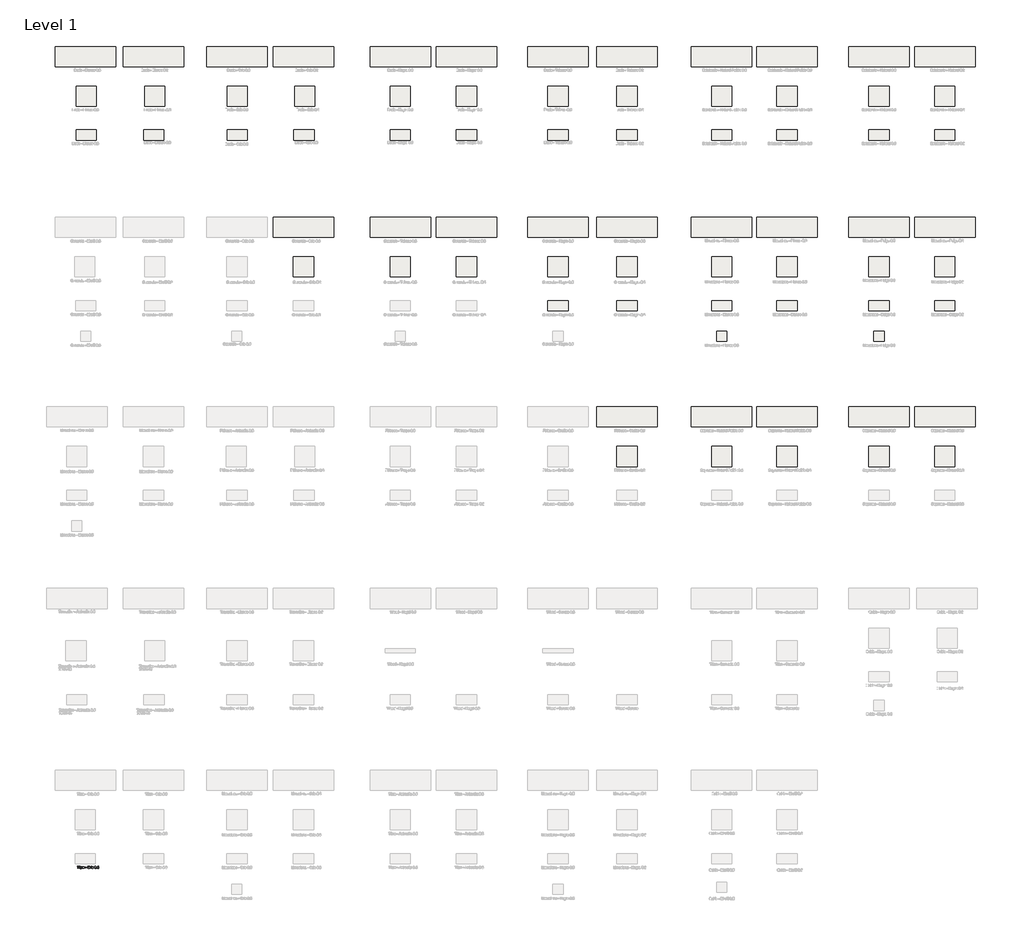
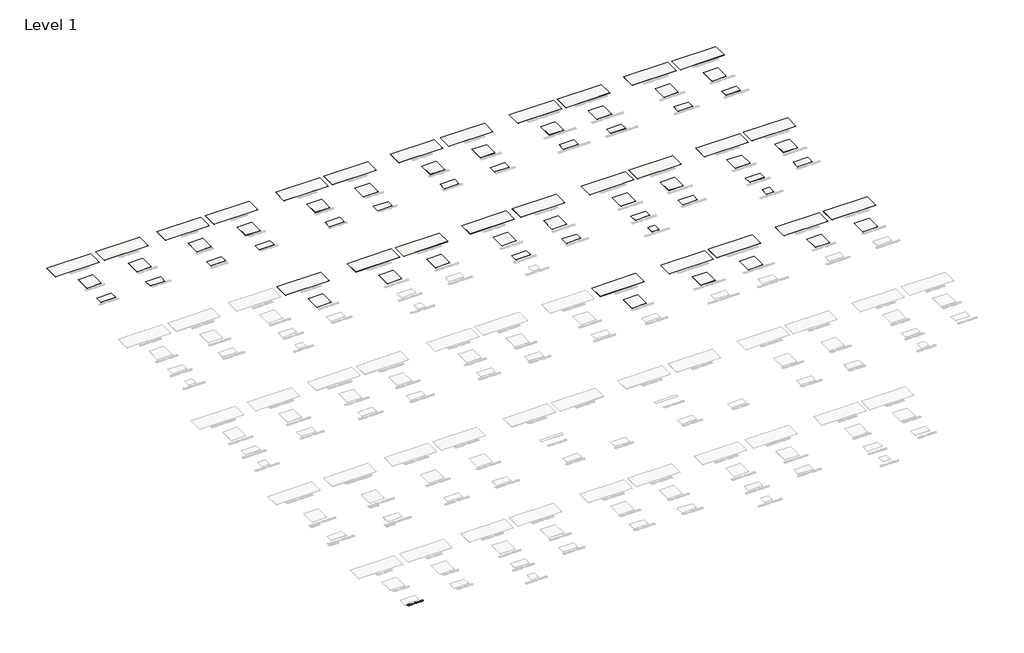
# One storey, part 2 of 80: 72 slabs, 1 proxy.
"""IFC4 building model written with IfcOpenShell, lengths in millimetres."""

from ifc_helpers import new_model, si_unit, frame, origin, origin_with_axes, place, context, project, spatial, polyline, outline, extrude, element, save

model = new_model("IFC4")

# Units and contexts
model_context = context("Model", 3, world=origin())
ifc_project = project(units=[si_unit("LENGTHUNIT", "METRE", prefix="MILLI")], contexts=[model_context])

# Site, building, storey
site = spatial("IfcSite", under=ifc_project)
building = spatial("IfcBuilding", under=site)
storey = spatial("IfcBuildingStorey", under=building, Name="Level 1", Elevation=0.0)

# Proxy
placement = place(None, origin())
element("IfcBuildingElementProxy", 1, Name="24\" Arial", ObjectType="24\" Arial", at=placement, inside=storey, context=model_context, shape_type="SweptSolid", body=[
    extrude(outline(polyline([(-26390.153031, -20307.8922787), (-26390.153031, -20204.5076633), (-26428.9222617, -20204.5076633), (-26428.9222617, -20189.7384325), (-26336.6145694, -20189.7384325), (-26336.6145694, -20204.5076633), (-26375.3838002, -20204.5076633), (-26375.3838002, -20307.8922787), (-26390.153031, -20307.8922787)])), origin_with_axes(), (0.0, 0.0, 1.0), 2.0),
    extrude(outline(polyline([(-26321.8453387, -20307.8922787), (-26321.8453387, -20221.1230479), (-26307.0761079, -20221.1230479), (-26307.0761079, -20307.8922787), (-26321.8453387, -20307.8922787)])), origin_with_axes(), (0.0, 0.0, 1.0), 2.0),
    extrude(outline(polyline([(-26321.8453387, -20204.5076633), (-26321.8453387, -20189.7384325), (-26307.0761079, -20189.7384325), (-26307.0761079, -20204.5076633), (-26321.8453387, -20204.5076633)])), origin_with_axes(), (0.0, 0.0, 1.0), 2.0),
    extrude(outline(polyline([(-26253.5376464, -20295.574971), (-26251.6914925, -20308.324971), (-26262.7395694, -20309.7384325), (-26275.1145694, -20307.2865094), (-26281.2876464, -20300.8538171), (-26283.0761079, -20284.0942017), (-26283.0761079, -20235.8922787), (-26294.153031, -20235.8922787), (-26294.153031, -20221.1230479), (-26283.0761079, -20221.1230479), (-26283.0761079, -20200.0365094), (-26268.3068771, -20191.3538171), (-26268.3068771, -20221.1230479), (-26253.5376464, -20221.1230479), (-26253.5376464, -20235.8922787), (-26268.3068771, -20235.8922787), (-26268.3068771, -20283.6615094), (-26267.528031, -20291.276894), (-26265.0039925, -20293.9740094), (-26259.9703387, -20294.9692017), (-26253.5376464, -20295.574971)])), origin_with_axes(), (0.0, 0.0, 1.0), 2.0),
    extrude(outline(polyline([(-26183.3838002, -20296.8153556), (-26197.7059156, -20306.824971), (-26213.528031, -20309.7384325), (-26225.8705791, -20307.9860287), (-26234.9751464, -20302.7288171), (-26240.5893291, -20294.745644), (-26242.4607233, -20284.8153556), (-26239.6338002, -20273.1326633), (-26232.2059156, -20264.651894), (-26221.8645694, -20259.8057402), (-26209.0857233, -20257.5845863), (-26183.4703387, -20252.5076633), (-26183.3838002, -20249.2192017), (-26187.4511079, -20238.3153556), (-26203.778031, -20234.0461248), (-26218.7203387, -20236.887471), (-26225.8453387, -20246.9692017), (-26240.6145694, -20245.1230479), (-26234.2251464, -20230.699971), (-26221.3597617, -20222.2480479), (-26201.8741848, -20219.276894), (-26183.9751464, -20221.901894), (-26173.8645694, -20228.4932402), (-26169.3357233, -20238.5172787), (-26168.6145694, -20251.4403556), (-26168.6145694, -20269.8153556), (-26167.8645694, -20295.4740094), (-26164.9222617, -20307.8922787), (-26179.6914925, -20307.8922787), (-26183.3838002, -20296.8153556)]), holes=[polyline([(-26183.3838002, -20267.276894), (-26207.2107233, -20271.8057402), (-26219.9174541, -20274.199971), (-26225.6722617, -20278.0942017), (-26227.6914925, -20283.776894), (-26223.2924541, -20291.7672787), (-26210.3838002, -20294.9692017), (-26195.4414925, -20291.4355479), (-26185.8068771, -20282.8826633), (-26183.4703387, -20271.4595863), (-26183.3838002, -20267.276894)])]), origin_with_axes(), (0.0, 0.0, 1.0), 2.0),
    extrude(outline(polyline([(-26148.3068771, -20307.8922787), (-26148.3068771, -20221.1230479), (-26133.5376464, -20221.1230479), (-26133.5376464, -20233.2384325), (-26122.2443771, -20222.7672787), (-26106.8261079, -20219.276894), (-26092.8789925, -20222.089394), (-26083.3597617, -20229.4740094), (-26078.9318771, -20240.3345863), (-26078.153031, -20254.6134325), (-26078.153031, -20307.8922787), (-26092.9222617, -20307.8922787), (-26092.9222617, -20256.6038171), (-26094.6241848, -20243.5365094), (-26100.6386079, -20236.6278556), (-26110.778031, -20234.0461248), (-26126.8020694, -20239.8442017), (-26131.8537521, -20248.245644), (-26133.5376464, -20261.8538171), (-26133.5376464, -20307.8922787), (-26148.3068771, -20307.8922787)])), origin_with_axes(), (0.0, 0.0, 1.0), 2.0),
    extrude(outline(polyline([(-26019.0761079, -20272.8153556), (-26019.0761079, -20258.0461248), (-25972.9222617, -20258.0461248), (-25972.9222617, -20272.8153556), (-26019.0761079, -20272.8153556)])), origin_with_axes(), (0.0, 0.0, 1.0), 2.0),
    extrude(outline(polyline([(-25852.9222617, -20261.7384325), (-25852.9222617, -20246.9692017), (-25804.9222617, -20246.9692017), (-25804.9222617, -20291.1326633), (-25828.6193771, -20305.0653556), (-25853.6722617, -20309.7384325), (-25870.2407714, -20307.8814613), (-25885.215531, -20302.3105479), (-25897.6554348, -20293.2204037), (-25906.6193771, -20280.8057402), (-25912.0388483, -20265.9139133), (-25913.8453387, -20249.3922787), (-25912.0460598, -20232.7516537), (-25906.6482233, -20217.2720863), (-25897.8753867, -20204.2877113), (-25885.9511079, -20195.1326633), (-25871.4270694, -20189.7023748), (-25854.8549541, -20187.8922787), (-25831.7491848, -20192.089394), (-25815.5520694, -20203.7720863), (-25806.6241848, -20223.3153556), (-25820.2395694, -20227.151894), (-25826.9751464, -20213.4932402), (-25838.4847617, -20205.6182402), (-25855.0857233, -20202.6615094), (-25873.9943771, -20205.8490094), (-25886.8597617, -20214.214394), (-25894.4607233, -20225.5942017), (-25899.0761079, -20248.7865094), (-25897.6878867, -20262.9103075), (-25893.5232233, -20274.5317017), (-25886.7083194, -20283.5677594), (-25877.3693771, -20289.9355479), (-25854.8549541, -20294.9692017), (-25834.6482233, -20291.1759325), (-25819.6914925, -20283.0845863), (-25819.6914925, -20261.7384325), (-25852.9222617, -20261.7384325)])), origin_with_axes(), (0.0, 0.0, 1.0), 2.0),
    extrude(outline(polyline([(-25782.7684156, -20307.8922787), (-25782.7684156, -20221.1230479), (-25769.8453387, -20221.1230479), (-25769.8453387, -20233.9595863), (-25760.6722617, -20222.1326633), (-25751.4414925, -20219.276894), (-25736.6145694, -20223.8345863), (-25741.5472617, -20237.074971), (-25751.9318771, -20234.0461248), (-25760.2828387, -20236.9595863), (-25765.6049541, -20245.0365094), (-25767.9991848, -20262.2865094), (-25767.9991848, -20307.8922787), (-25782.7684156, -20307.8922787)])), origin_with_axes(), (0.0, 0.0, 1.0), 2.0),
    extrude(outline(polyline([(-25727.3838002, -20307.8922787), (-25727.3838002, -20221.1230479), (-25712.6145694, -20221.1230479), (-25712.6145694, -20307.8922787), (-25727.3838002, -20307.8922787)])), origin_with_axes(), (0.0, 0.0, 1.0), 2.0),
    extrude(outline(polyline([(-25727.3838002, -20204.5076633), (-25727.3838002, -20189.7384325), (-25712.6145694, -20189.7384325), (-25712.6145694, -20204.5076633), (-25727.3838002, -20204.5076633)])), origin_with_axes(), (0.0, 0.0, 1.0), 2.0),
    extrude(outline(polyline([(-25695.9991848, -20282.0461248), (-25681.2299541, -20280.199971), (-25674.3934156, -20291.1615094), (-25658.7299541, -20294.9692017), (-25643.6722617, -20291.4788171), (-25638.7684156, -20283.2865094), (-25643.7011079, -20276.651894), (-25658.903031, -20272.4403556), (-25681.1434156, -20265.214394), (-25690.8501464, -20256.776894), (-25694.153031, -20244.8634325), (-25691.4991848, -20233.8586248), (-25684.2588002, -20225.449971), (-25674.8693771, -20221.0797787), (-25662.1626464, -20219.276894), (-25644.1914925, -20222.1759325), (-25632.7684156, -20230.0220863), (-25627.6914925, -20243.276894), (-25642.4607233, -20245.1230479), (-25648.0136079, -20236.9740094), (-25661.0088002, -20234.0461248), (-25675.1434156, -20236.8442017), (-25679.3838002, -20243.3634325), (-25677.6241848, -20247.6615094), (-25672.1145694, -20250.9211248), (-25659.3934156, -20254.0653556), (-25637.715531, -20261.0172787), (-25627.6482233, -20268.8922787), (-25623.9991848, -20281.7288171), (-25628.2828387, -20295.8634325), (-25640.6434156, -20306.1182402), (-25658.9318771, -20309.7384325), (-25673.8237041, -20307.9932402), (-25684.6914925, -20302.7576633), (-25691.9463002, -20294.089394), (-25695.9991848, -20282.0461248)])), origin_with_axes(), (0.0, 0.0, 1.0), 2.0),
    extrude(outline(polyline([(-25564.9222617, -20276.5076633), (-25550.153031, -20274.6615094), (-25542.0039925, -20290.2095863), (-25526.7588002, -20294.9692017), (-25516.6338002, -20293.3321825), (-25508.8164925, -20288.4211248), (-25503.8188964, -20281.0942017), (-25502.153031, -20272.2095863), (-25503.8044733, -20263.7756921), (-25508.7588002, -20256.9355479), (-25516.2588002, -20252.403096), (-25525.5472617, -20250.8922787), (-25535.903031, -20252.5076633), (-25534.2588002, -20237.7384325), (-25531.8934156, -20237.9115094), (-25515.1338002, -20233.6711248), (-25509.5520694, -20228.2913171), (-25507.6914925, -20220.6326633), (-25513.0857233, -20209.0797787), (-25526.9895694, -20204.5076633), (-25541.0664925, -20209.1230479), (-25548.3068771, -20222.9692017), (-25563.0761079, -20221.1230479), (-25558.7275502, -20207.8610287), (-25550.9895694, -20197.9595863), (-25540.403031, -20191.793721), (-25527.5088002, -20189.7384325), (-25509.6963002, -20193.7913171), (-25497.2347617, -20204.8682402), (-25492.9222617, -20219.7672787), (-25497.0184156, -20233.3826633), (-25509.1338002, -20243.1615094), (-25499.8886079, -20246.8970863), (-25493.0376464, -20253.2576633), (-25488.7972617, -20261.8970863), (-25487.3838002, -20272.4692017), (-25490.2107233, -20286.8634325), (-25498.6914925, -20298.8922787), (-25511.4919733, -20307.026894), (-25527.278031, -20309.7384325), (-25541.5568771, -20307.4235287), (-25553.1818771, -20300.4788171), (-25561.2660117, -20289.856221), (-25564.9222617, -20276.5076633)])), origin_with_axes(), (0.0, 0.0, 1.0), 2.0),
    extrude(outline(polyline([(-25467.0761079, -20307.8922787), (-25467.0761079, -20293.1230479), (-25452.3068771, -20293.1230479), (-25452.3068771, -20307.8922787), (-25467.0761079, -20307.8922787)])), origin_with_axes(), (0.0, 0.0, 1.0), 2.0),
    extrude(outline(polyline([(-25428.3068771, -20276.5076633), (-25413.5376464, -20274.6615094), (-25406.0953387, -20289.8778556), (-25390.6626464, -20294.9692017), (-25380.0761079, -20293.198769), (-25372.1434156, -20287.887471), (-25367.1890887, -20279.6482883), (-25365.5376464, -20269.0942017), (-25367.0845214, -20259.1567017), (-25371.7251464, -20251.5557402), (-25379.4955791, -20246.731221), (-25390.4318771, -20245.1230479), (-25403.3982233, -20247.6903556), (-25411.6914925, -20254.3538171), (-25426.4607233, -20252.5076633), (-25413.5376464, -20191.5845863), (-25356.3068771, -20191.5845863), (-25356.3068771, -20206.3538171), (-25401.5953387, -20206.3538171), (-25407.9126464, -20238.8922787), (-25397.3621656, -20232.4884325), (-25386.3068771, -20230.3538171), (-25372.5075983, -20233.0004517), (-25361.0520694, -20240.9403556), (-25353.3393291, -20253.0413171), (-25350.7684156, -20268.1711248), (-25353.0833194, -20282.9403556), (-25360.028031, -20295.574971), (-25373.3261079, -20306.1975671), (-25390.7203387, -20309.7384325), (-25405.2263483, -20307.4631921), (-25416.7828387, -20300.637471), (-25424.7047137, -20290.0545383), (-25428.3068771, -20276.5076633)])), origin_with_axes(), (0.0, 0.0, 1.0), 2.0),
])

# Slabs
element("IfcSlab", 2, ObjectType="100x300 Coverlam_Basic Blanco 5.6", at=placement, inside=storey, context=model_context, shape_type="SweptSolid", body=[
    extrude(outline(polyline([(-24145.5376464, 20449.2793249), (-21145.5376464, 20449.2793249), (-21145.5376464, 19449.2793249), (-24145.5376464, 19449.2793249), (-24145.5376464, 20449.2793249)])), frame((0.0, 0.0, -5.6), z_axis=(0.0, 0.0, 1.0), x_axis=(1.0, 0.0, 0.0)), (0.0, 0.0, 1.0), 5.6),
])
element("IfcSlab", 3, ObjectType="100x100 Coverlam_Basic Blanco 5.6", at=placement, inside=storey, context=model_context, shape_type="SweptSolid", body=[
    extrude(outline(polyline([(-23083.4563631, 18483.9522821), (-22083.4563631, 18483.9522821), (-22083.4563631, 17483.9522821), (-23083.4563631, 17483.9522821), (-23083.4563631, 18483.9522821)])), frame((0.0, 0.0, -5.6), z_axis=(0.0, 0.0, 1.0), x_axis=(1.0, 0.0, 0.0)), (0.0, 0.0, 1.0), 5.6),
])
element("IfcSlab", 4, ObjectType="50x100 Coverlam_Basic Blanco 5.6", at=placement, inside=storey, context=model_context, shape_type="SweptSolid", body=[
    extrude(outline(polyline([(-23123.4563631, 16313.9377666), (-22123.4563631, 16313.9377666), (-22123.4563631, 15813.9377666), (-23123.4563631, 15813.9377666), (-23123.4563631, 16313.9377666)])), frame((0.0, 0.0, -5.6), z_axis=(0.0, 0.0, 1.0), x_axis=(1.0, 0.0, 0.0)), (0.0, 0.0, 1.0), 5.6),
])
element("IfcSlab", 5, ObjectType="100x300 Coverlam_Basic Blanco", at=placement, inside=storey, context=model_context, shape_type="SweptSolid", body=[
    extrude(outline(polyline([(-27505.5376464, 20449.2793249), (-24505.5376464, 20449.2793249), (-24505.5376464, 19449.2793249), (-27505.5376464, 19449.2793249), (-27505.5376464, 20449.2793249)])), frame((0.0, 0.0, -3.5), z_axis=(0.0, 0.0, 1.0), x_axis=(1.0, 0.0, 0.0)), (0.0, 0.0, 1.0), 3.5),
])
element("IfcSlab", 6, ObjectType="100x100 Coverlam_Basic Blanco", at=placement, inside=storey, context=model_context, shape_type="SweptSolid", body=[
    extrude(outline(polyline([(-26483.4563631, 18483.9522821), (-25483.4563631, 18483.9522821), (-25483.4563631, 17483.9522821), (-26483.4563631, 17483.9522821), (-26483.4563631, 18483.9522821)])), frame((0.0, 0.0, -3.5), z_axis=(0.0, 0.0, 1.0), x_axis=(1.0, 0.0, 0.0)), (0.0, 0.0, 1.0), 3.5),
])
element("IfcSlab", 7, ObjectType="50x100 Coverlam_Basic Blanco 3.5", at=placement, inside=storey, context=model_context, shape_type="SweptSolid", body=[
    extrude(outline(polyline([(-26483.4563631, 16313.9377666), (-25483.4563631, 16313.9377666), (-25483.4563631, 15813.9377666), (-26483.4563631, 15813.9377666), (-26483.4563631, 16313.9377666)])), frame((0.0, 0.0, -3.5), z_axis=(0.0, 0.0, 1.0), x_axis=(1.0, 0.0, 0.0)), (0.0, 0.0, 1.0), 3.5),
])
element("IfcSlab", 8, ObjectType="100x300 Coverlam_Basic Gris 5.6", at=placement, inside=storey, context=model_context, shape_type="SweptSolid", body=[
    extrude(outline(polyline([(-16705.5376464, 20449.2793249), (-13705.5376464, 20449.2793249), (-13705.5376464, 19449.2793249), (-16705.5376464, 19449.2793249), (-16705.5376464, 20449.2793249)])), frame((0.0, 0.0, -5.6), z_axis=(0.0, 0.0, 1.0), x_axis=(1.0, 0.0, 0.0)), (0.0, 0.0, 1.0), 5.6),
])
element("IfcSlab", 9, ObjectType="100x300 Coverlam_Basic Gris 3.5", at=placement, inside=storey, context=model_context, shape_type="SweptSolid", body=[
    extrude(outline(polyline([(-20005.5376464, 20449.2793249), (-17005.5376464, 20449.2793249), (-17005.5376464, 19449.2793249), (-20005.5376464, 19449.2793249), (-20005.5376464, 20449.2793249)])), frame((0.0, 0.0, -3.5), z_axis=(0.0, 0.0, 1.0), x_axis=(1.0, 0.0, 0.0)), (0.0, 0.0, 1.0), 3.5),
])
element("IfcSlab", 10, ObjectType="100x100 Coverlam_Basic Gris 5.6", at=placement, inside=storey, context=model_context, shape_type="SweptSolid", body=[
    extrude(outline(polyline([(-15643.4563631, 18483.9522821), (-14643.4563631, 18483.9522821), (-14643.4563631, 17483.9522821), (-15643.4563631, 17483.9522821), (-15643.4563631, 18483.9522821)])), frame((0.0, 0.0, -5.6), z_axis=(0.0, 0.0, 1.0), x_axis=(1.0, 0.0, 0.0)), (0.0, 0.0, 1.0), 5.6),
])
element("IfcSlab", 11, ObjectType="100x100 Coverlam_Basic Gris 3.5", at=placement, inside=storey, context=model_context, shape_type="SweptSolid", body=[
    extrude(outline(polyline([(-18983.4563631, 18483.9522821), (-17983.4563631, 18483.9522821), (-17983.4563631, 17483.9522821), (-18983.4563631, 17483.9522821), (-18983.4563631, 18483.9522821)])), frame((0.0, 0.0, -3.5), z_axis=(0.0, 0.0, 1.0), x_axis=(1.0, 0.0, 0.0)), (0.0, 0.0, 1.0), 3.5),
])
element("IfcSlab", 12, ObjectType="50x100 Coverlam_Basic Gris 5.6", at=placement, inside=storey, context=model_context, shape_type="SweptSolid", body=[
    extrude(outline(polyline([(-15683.4563631, 16313.9377666), (-14683.4563631, 16313.9377666), (-14683.4563631, 15813.9377666), (-15683.4563631, 15813.9377666), (-15683.4563631, 16313.9377666)])), frame((0.0, 0.0, -5.6), z_axis=(0.0, 0.0, 1.0), x_axis=(1.0, 0.0, 0.0)), (0.0, 0.0, 1.0), 5.6),
])
element("IfcSlab", 13, ObjectType="50x100 Coverlam_Basic Gris 3.5", at=placement, inside=storey, context=model_context, shape_type="SweptSolid", body=[
    extrude(outline(polyline([(-18983.4563631, 16313.9377666), (-17983.4563631, 16313.9377666), (-17983.4563631, 15813.9377666), (-18983.4563631, 15813.9377666), (-18983.4563631, 16313.9377666)])), frame((0.0, 0.0, -3.5), z_axis=(0.0, 0.0, 1.0), x_axis=(1.0, 0.0, 0.0)), (0.0, 0.0, 1.0), 3.5),
])
element("IfcSlab", 14, ObjectType="100x300 Coverlam_Concrete Gris 5.6", at=placement, inside=storey, context=model_context, shape_type="SweptSolid", body=[
    extrude(outline(polyline([(-16705.5376464, 11990.4715713), (-13705.5376464, 11990.4715713), (-13705.5376464, 10990.4715713), (-16705.5376464, 10990.4715713), (-16705.5376464, 11990.4715713)])), frame((0.0, 0.0, -5.6), z_axis=(0.0, 0.0, 1.0), x_axis=(1.0, 0.0, 0.0)), (0.0, 0.0, 1.0), 5.6),
])
element("IfcSlab", 15, ObjectType="100x100 Coverlam_Concrete Gris 5.6", at=placement, inside=storey, context=model_context, shape_type="SweptSolid", body=[
    extrude(outline(polyline([(-15705.5376464, 10025.1445285), (-14705.5376464, 10025.1445285), (-14705.5376464, 9025.1445285), (-15705.5376464, 9025.1445285), (-15705.5376464, 10025.1445285)])), frame((0.0, 0.0, -5.6), z_axis=(0.0, 0.0, 1.0), x_axis=(1.0, 0.0, 0.0)), (0.0, 0.0, 1.0), 5.6),
])
element("IfcSlab", 16, ObjectType="100x300 Coverlam_Basic Negro 5.6", at=placement, inside=storey, context=model_context, shape_type="SweptSolid", body=[
    extrude(outline(polyline([(-8625.5376464, 20449.2793249), (-5625.5376464, 20449.2793249), (-5625.5376464, 19449.2793249), (-8625.5376464, 19449.2793249), (-8625.5376464, 20449.2793249)])), frame((0.0, 0.0, -5.6), z_axis=(0.0, 0.0, 1.0), x_axis=(1.0, 0.0, 0.0)), (0.0, 0.0, 1.0), 5.6),
])
element("IfcSlab", 17, ObjectType="100x300 Coverlam_Basic Negro 3.5", at=placement, inside=storey, context=model_context, shape_type="SweptSolid", body=[
    extrude(outline(polyline([(-11905.5376464, 20449.2793249), (-8905.5376464, 20449.2793249), (-8905.5376464, 19449.2793249), (-11905.5376464, 19449.2793249), (-11905.5376464, 20449.2793249)])), frame((0.0, 0.0, -3.5), z_axis=(0.0, 0.0, 1.0), x_axis=(1.0, 0.0, 0.0)), (0.0, 0.0, 1.0), 3.5),
])
element("IfcSlab", 18, ObjectType="100x100 Coverlam_Basic Negro 5.6", at=placement, inside=storey, context=model_context, shape_type="SweptSolid", body=[
    extrude(outline(polyline([(-7625.5376464, 18483.9522821), (-6625.5376464, 18483.9522821), (-6625.5376464, 17483.9522821), (-7625.5376464, 17483.9522821), (-7625.5376464, 18483.9522821)])), frame((0.0, 0.0, -5.6), z_axis=(0.0, 0.0, 1.0), x_axis=(1.0, 0.0, 0.0)), (0.0, 0.0, 1.0), 5.6),
])
element("IfcSlab", 19, ObjectType="100x100 Coverlam_Basic Negro 3.5", at=placement, inside=storey, context=model_context, shape_type="SweptSolid", body=[
    extrude(outline(polyline([(-10905.5376464, 18483.9522821), (-9905.5376464, 18483.9522821), (-9905.5376464, 17483.9522821), (-10905.5376464, 17483.9522821), (-10905.5376464, 18483.9522821)])), frame((0.0, 0.0, -3.5), z_axis=(0.0, 0.0, 1.0), x_axis=(1.0, 0.0, 0.0)), (0.0, 0.0, 1.0), 3.5),
])
element("IfcSlab", 20, ObjectType="50x100 Coverlam_Basic Negro 5.6", at=placement, inside=storey, context=model_context, shape_type="SweptSolid", body=[
    extrude(outline(polyline([(-7625.5376464, 16313.9377666), (-6625.5376464, 16313.9377666), (-6625.5376464, 15813.9377666), (-7625.5376464, 15813.9377666), (-7625.5376464, 16313.9377666)])), frame((0.0, 0.0, -5.6), z_axis=(0.0, 0.0, 1.0), x_axis=(1.0, 0.0, 0.0)), (0.0, 0.0, 1.0), 5.6),
])
element("IfcSlab", 21, ObjectType="50x100 Coverlam_Basic Negro 3.5", at=placement, inside=storey, context=model_context, shape_type="SweptSolid", body=[
    extrude(outline(polyline([(-10905.5376464, 16313.9377666), (-9905.5376464, 16313.9377666), (-9905.5376464, 15813.9377666), (-10905.5376464, 15813.9377666), (-10905.5376464, 16313.9377666)])), frame((0.0, 0.0, -3.5), z_axis=(0.0, 0.0, 1.0), x_axis=(1.0, 0.0, 0.0)), (0.0, 0.0, 1.0), 3.5),
])
element("IfcSlab", 22, ObjectType="100x300 Coverlam_Concrete Tabaco 5.6", at=placement, inside=storey, context=model_context, shape_type="SweptSolid", body=[
    extrude(outline(polyline([(-8625.5376464, 11990.4715713), (-5625.5376464, 11990.4715713), (-5625.5376464, 10990.4715713), (-8625.5376464, 10990.4715713), (-8625.5376464, 11990.4715713)])), frame((0.0, 0.0, -5.6), z_axis=(0.0, 0.0, 1.0), x_axis=(1.0, 0.0, 0.0)), (0.0, 0.0, 1.0), 5.6),
])
element("IfcSlab", 23, ObjectType="100x300 Coverlam_Concrete Tabaco 3.5", at=placement, inside=storey, context=model_context, shape_type="SweptSolid", body=[
    extrude(outline(polyline([(-11905.5376464, 11990.4715713), (-8905.5376464, 11990.4715713), (-8905.5376464, 10990.4715713), (-11905.5376464, 10990.4715713), (-11905.5376464, 11990.4715713)])), frame((0.0, 0.0, -3.5), z_axis=(0.0, 0.0, 1.0), x_axis=(1.0, 0.0, 0.0)), (0.0, 0.0, 1.0), 3.5),
])
element("IfcSlab", 24, ObjectType="100x100 Coverlam_Concrete Tabaco 5.6", at=placement, inside=storey, context=model_context, shape_type="SweptSolid", body=[
    extrude(outline(polyline([(-7625.5376464, 10025.1445285), (-6625.5376464, 10025.1445285), (-6625.5376464, 9025.1445285), (-7625.5376464, 9025.1445285), (-7625.5376464, 10025.1445285)])), frame((0.0, 0.0, -5.6), z_axis=(0.0, 0.0, 1.0), x_axis=(1.0, 0.0, 0.0)), (0.0, 0.0, 1.0), 5.6),
])
element("IfcSlab", 25, ObjectType="100x100 Coverlam_Concrete Tabaco 3.5", at=placement, inside=storey, context=model_context, shape_type="SweptSolid", body=[
    extrude(outline(polyline([(-10905.5376464, 10025.1445285), (-9905.5376464, 10025.1445285), (-9905.5376464, 9025.1445285), (-10905.5376464, 9025.1445285), (-10905.5376464, 10025.1445285)])), frame((0.0, 0.0, -3.5), z_axis=(0.0, 0.0, 1.0), x_axis=(1.0, 0.0, 0.0)), (0.0, 0.0, 1.0), 3.5),
])
element("IfcSlab", 26, ObjectType="100x300 Coverlam_Basic Tabaco 5.6", at=placement, inside=storey, context=model_context, shape_type="SweptSolid", body=[
    extrude(outline(polyline([(-665.5376464, 20449.2793249), (2334.4623536, 20449.2793249), (2334.4623536, 19449.2793249), (-665.5376464, 19449.2793249), (-665.5376464, 20449.2793249)])), frame((0.0, 0.0, -5.6), z_axis=(0.0, 0.0, 1.0), x_axis=(1.0, 0.0, 0.0)), (0.0, 0.0, 1.0), 5.6),
])
element("IfcSlab", 27, ObjectType="100x300 Coverlam_Basic Tabaco 3.5", at=placement, inside=storey, context=model_context, shape_type="SweptSolid", body=[
    extrude(outline(polyline([(-4085.5376464, 20449.2793249), (-1085.5376464, 20449.2793249), (-1085.5376464, 19449.2793249), (-4085.5376464, 19449.2793249), (-4085.5376464, 20449.2793249)])), frame((0.0, 0.0, -3.5), z_axis=(0.0, 0.0, 1.0), x_axis=(1.0, 0.0, 0.0)), (0.0, 0.0, 1.0), 3.5),
])
element("IfcSlab", 28, ObjectType="100x100 Coverlam_Basic Tabaco 5.6", at=placement, inside=storey, context=model_context, shape_type="SweptSolid", body=[
    extrude(outline(polyline([(334.4623536, 18483.9522821), (1334.4623536, 18483.9522821), (1334.4623536, 17483.9522821), (334.4623536, 17483.9522821), (334.4623536, 18483.9522821)])), frame((0.0, 0.0, -5.6), z_axis=(0.0, 0.0, 1.0), x_axis=(1.0, 0.0, 0.0)), (0.0, 0.0, 1.0), 5.6),
])
element("IfcSlab", 29, ObjectType="100x100 Coverlam_Basic Tabaco 3.5", at=placement, inside=storey, context=model_context, shape_type="SweptSolid", body=[
    extrude(outline(polyline([(-3085.5376464, 18483.9522821), (-2085.5376464, 18483.9522821), (-2085.5376464, 17483.9522821), (-3085.5376464, 17483.9522821), (-3085.5376464, 18483.9522821)])), frame((0.0, 0.0, -3.5), z_axis=(0.0, 0.0, 1.0), x_axis=(1.0, 0.0, 0.0)), (0.0, 0.0, 1.0), 3.5),
])
element("IfcSlab", 30, ObjectType="50x100 Coverlam_Basic Tabaco 5.6", at=placement, inside=storey, context=model_context, shape_type="SweptSolid", body=[
    extrude(outline(polyline([(334.4623536, 16313.9377666), (1334.4623536, 16313.9377666), (1334.4623536, 15813.9377666), (334.4623536, 15813.9377666), (334.4623536, 16313.9377666)])), frame((0.0, 0.0, -5.6), z_axis=(0.0, 0.0, 1.0), x_axis=(1.0, 0.0, 0.0)), (0.0, 0.0, 1.0), 5.6),
])
element("IfcSlab", 31, ObjectType="50x100 Coverlam_Basic Tabaco 3.5", at=placement, inside=storey, context=model_context, shape_type="SweptSolid", body=[
    extrude(outline(polyline([(-3085.5376464, 16313.9377666), (-2085.5376464, 16313.9377666), (-2085.5376464, 15813.9377666), (-3085.5376464, 15813.9377666), (-3085.5376464, 16313.9377666)])), frame((0.0, 0.0, -3.5), z_axis=(0.0, 0.0, 1.0), x_axis=(1.0, 0.0, 0.0)), (0.0, 0.0, 1.0), 3.5),
])
element("IfcSlab", 32, ObjectType="100x300 Coverlam__Concrete Negro 5.6", at=placement, inside=storey, context=model_context, shape_type="SweptSolid", body=[
    extrude(outline(polyline([(-665.5376464, 11990.4715713), (2334.4623536, 11990.4715713), (2334.4623536, 10990.4715713), (-665.5376464, 10990.4715713), (-665.5376464, 11990.4715713)])), frame((0.0, 0.0, -5.6), z_axis=(0.0, 0.0, 1.0), x_axis=(1.0, 0.0, 0.0)), (0.0, 0.0, 1.0), 5.6),
])
element("IfcSlab", 33, ObjectType="100x300 Coverlam__Concrete Negro 3.5", at=placement, inside=storey, context=model_context, shape_type="SweptSolid", body=[
    extrude(outline(polyline([(-4085.5376464, 11990.4715713), (-1085.5376464, 11990.4715713), (-1085.5376464, 10990.4715713), (-4085.5376464, 10990.4715713), (-4085.5376464, 11990.4715713)])), frame((0.0, 0.0, -3.5), z_axis=(0.0, 0.0, 1.0), x_axis=(1.0, 0.0, 0.0)), (0.0, 0.0, 1.0), 3.5),
])
element("IfcSlab", 34, ObjectType="100x100 Coverlam_Concrete Negro 5.6", at=placement, inside=storey, context=model_context, shape_type="SweptSolid", body=[
    extrude(outline(polyline([(334.4623536, 10025.1445285), (1334.4623536, 10025.1445285), (1334.4623536, 9025.1445285), (334.4623536, 9025.1445285), (334.4623536, 10025.1445285)])), frame((0.0, 0.0, -5.6), z_axis=(0.0, 0.0, 1.0), x_axis=(1.0, 0.0, 0.0)), (0.0, 0.0, 1.0), 5.6),
])
element("IfcSlab", 35, ObjectType="100x100 Coverlam_Concrete Negro 3.5", at=placement, inside=storey, context=model_context, shape_type="SweptSolid", body=[
    extrude(outline(polyline([(-3085.5376464, 10025.1445285), (-2085.5376464, 10025.1445285), (-2085.5376464, 9025.1445285), (-3085.5376464, 9025.1445285), (-3085.5376464, 10025.1445285)])), frame((0.0, 0.0, -3.5), z_axis=(0.0, 0.0, 1.0), x_axis=(1.0, 0.0, 0.0)), (0.0, 0.0, 1.0), 3.5),
])
element("IfcSlab", 36, ObjectType="50x100 Coverlam_Concrete Negro 5.6", at=placement, inside=storey, context=model_context, shape_type="SweptSolid", body=[
    extrude(outline(polyline([(334.4623536, 7853.9377666), (1334.4623536, 7853.9377666), (1334.4623536, 7353.9377666), (334.4623536, 7353.9377666), (334.4623536, 7853.9377666)])), frame((0.0, 0.0, -5.6), z_axis=(0.0, 0.0, 1.0), x_axis=(1.0, 0.0, 0.0)), (0.0, 0.0, 1.0), 5.6),
])
element("IfcSlab", 37, ObjectType="50x100 Coverlam_Concrete Negro 3.5", at=placement, inside=storey, context=model_context, shape_type="SweptSolid", body=[
    extrude(outline(polyline([(-3085.5376464, 7853.9377666), (-2085.5376464, 7853.9377666), (-2085.5376464, 7353.9377666), (-3085.5376464, 7353.9377666), (-3085.5376464, 7853.9377666)])), frame((0.0, 0.0, -3.5), z_axis=(0.0, 0.0, 1.0), x_axis=(1.0, 0.0, 0.0)), (0.0, 0.0, 1.0), 3.5),
])
element("IfcSlab", 38, ObjectType="100x300 Coverlam_Estatuario Pulido 5.6", at=placement, inside=storey, context=model_context, shape_type="SweptSolid", body=[
    extrude(outline(polyline([(7274.4623536, 20449.2793249), (10274.4623536, 20449.2793249), (10274.4623536, 19449.2793249), (7274.4623536, 19449.2793249), (7274.4623536, 20449.2793249)])), frame((0.0, 0.0, -5.6), z_axis=(0.0, 0.0, 1.0), x_axis=(1.0, 0.0, 0.0)), (0.0, 0.0, 1.0), 5.6),
])
element("IfcSlab", 39, ObjectType="100x300 Coverlam_Estatuario Pulido 3.5", at=placement, inside=storey, context=model_context, shape_type="SweptSolid", body=[
    extrude(outline(polyline([(4034.4623536, 20449.2793249), (7034.4623536, 20449.2793249), (7034.4623536, 19449.2793249), (4034.4623536, 19449.2793249), (4034.4623536, 20449.2793249)])), frame((0.0, 0.0, -3.5), z_axis=(0.0, 0.0, 1.0), x_axis=(1.0, 0.0, 0.0)), (0.0, 0.0, 1.0), 3.5),
])
element("IfcSlab", 40, ObjectType="100x100 Coverlam_Estatuario Pulido 5.6", at=placement, inside=storey, context=model_context, shape_type="SweptSolid", body=[
    extrude(outline(polyline([(8274.4623536, 18483.9522821), (9274.4623536, 18483.9522821), (9274.4623536, 17483.9522821), (8274.4623536, 17483.9522821), (8274.4623536, 18483.9522821)])), frame((0.0, 0.0, -5.6), z_axis=(0.0, 0.0, 1.0), x_axis=(1.0, 0.0, 0.0)), (0.0, 0.0, 1.0), 5.6),
])
element("IfcSlab", 41, ObjectType="100x100 Coverlam_Estatuario Pulido 3.5", at=placement, inside=storey, context=model_context, shape_type="SweptSolid", body=[
    extrude(outline(polyline([(5034.4623536, 18483.9522821), (6034.4623536, 18483.9522821), (6034.4623536, 17483.9522821), (5034.4623536, 17483.9522821), (5034.4623536, 18483.9522821)])), frame((0.0, 0.0, -3.5), z_axis=(0.0, 0.0, 1.0), x_axis=(1.0, 0.0, 0.0)), (0.0, 0.0, 1.0), 3.5),
])
element("IfcSlab", 42, ObjectType="50x100 Coverlam_Estatuario Pulido 5.6", at=placement, inside=storey, context=model_context, shape_type="SweptSolid", body=[
    extrude(outline(polyline([(8274.4623536, 16313.9377666), (9274.4623536, 16313.9377666), (9274.4623536, 15813.9377666), (8274.4623536, 15813.9377666), (8274.4623536, 16313.9377666)])), frame((0.0, 0.0, -5.6), z_axis=(0.0, 0.0, 1.0), x_axis=(1.0, 0.0, 0.0)), (0.0, 0.0, 1.0), 5.6),
])
element("IfcSlab", 43, ObjectType="50x100 Coverlam_Estatuario Pulido 3.5", at=placement, inside=storey, context=model_context, shape_type="SweptSolid", body=[
    extrude(outline(polyline([(5034.4623536, 16313.9377666), (6034.4623536, 16313.9377666), (6034.4623536, 15813.9377666), (5034.4623536, 15813.9377666), (5034.4623536, 16313.9377666)])), frame((0.0, 0.0, -3.5), z_axis=(0.0, 0.0, 1.0), x_axis=(1.0, 0.0, 0.0)), (0.0, 0.0, 1.0), 3.5),
])
element("IfcSlab", 44, ObjectType="100x300 Coverlam_Limestone Blanco 5.6", at=placement, inside=storey, context=model_context, shape_type="SweptSolid", body=[
    extrude(outline(polyline([(7274.4623536, 11990.4715713), (10274.4623536, 11990.4715713), (10274.4623536, 10990.4715713), (7274.4623536, 10990.4715713), (7274.4623536, 11990.4715713)])), frame((0.0, 0.0, -5.6), z_axis=(0.0, 0.0, 1.0), x_axis=(1.0, 0.0, 0.0)), (0.0, 0.0, 1.0), 5.6),
])
element("IfcSlab", 45, ObjectType="100x300 Coverlam_Limestone Blanco 3.5", at=placement, inside=storey, context=model_context, shape_type="SweptSolid", body=[
    extrude(outline(polyline([(4034.4623536, 11990.4715713), (7034.4623536, 11990.4715713), (7034.4623536, 10990.4715713), (4034.4623536, 10990.4715713), (4034.4623536, 11990.4715713)])), frame((0.0, 0.0, -3.5), z_axis=(0.0, 0.0, 1.0), x_axis=(1.0, 0.0, 0.0)), (0.0, 0.0, 1.0), 3.5),
])
element("IfcSlab", 46, ObjectType="100x100 Coverlam_Limestone Blanco 5.6", at=placement, inside=storey, context=model_context, shape_type="SweptSolid", body=[
    extrude(outline(polyline([(8274.4623536, 10025.1445285), (9274.4623536, 10025.1445285), (9274.4623536, 9025.1445285), (8274.4623536, 9025.1445285), (8274.4623536, 10025.1445285)])), frame((0.0, 0.0, -5.6), z_axis=(0.0, 0.0, 1.0), x_axis=(1.0, 0.0, 0.0)), (0.0, 0.0, 1.0), 5.6),
])
element("IfcSlab", 47, ObjectType="100x100 Coverlam_Limestone Blanco 3.5", at=placement, inside=storey, context=model_context, shape_type="SweptSolid", body=[
    extrude(outline(polyline([(5034.4623536, 10025.1445285), (6034.4623536, 10025.1445285), (6034.4623536, 9025.1445285), (5034.4623536, 9025.1445285), (5034.4623536, 10025.1445285)])), frame((0.0, 0.0, -3.5), z_axis=(0.0, 0.0, 1.0), x_axis=(1.0, 0.0, 0.0)), (0.0, 0.0, 1.0), 3.5),
])
element("IfcSlab", 48, ObjectType="100x50 Coverlam_Limestone Blanco 5.6", at=placement, inside=storey, context=model_context, shape_type="SweptSolid", body=[
    extrude(outline(polyline([(8274.4623536, 7853.9377666), (9274.4623536, 7853.9377666), (9274.4623536, 7353.9377666), (8274.4623536, 7353.9377666), (8274.4623536, 7853.9377666)])), frame((0.0, 0.0, -5.6), z_axis=(0.0, 0.0, 1.0), x_axis=(1.0, 0.0, 0.0)), (0.0, 0.0, 1.0), 5.6),
])
element("IfcSlab", 49, ObjectType="100x50 Coverlam_Limestone Blanco 3.5", at=placement, inside=storey, context=model_context, shape_type="SweptSolid", body=[
    extrude(outline(polyline([(5034.4623536, 7853.9377666), (6034.4623536, 7853.9377666), (6034.4623536, 7353.9377666), (5034.4623536, 7353.9377666), (5034.4623536, 7853.9377666)])), frame((0.0, 0.0, -3.5), z_axis=(0.0, 0.0, 1.0), x_axis=(1.0, 0.0, 0.0)), (0.0, 0.0, 1.0), 3.5),
])
element("IfcSlab", 50, ObjectType="50x50 Coverlam_Limestone Blanco 3.5", at=placement, inside=storey, context=model_context, shape_type="SweptSolid", body=[
    extrude(outline(polyline([(5284.4623536, 6323.9377666), (5784.4623536, 6323.9377666), (5784.4623536, 5823.9377666), (5284.4623536, 5823.9377666), (5284.4623536, 6323.9377666)])), frame((0.0, 0.0, -3.5), z_axis=(0.0, 0.0, 1.0), x_axis=(1.0, 0.0, 0.0)), (0.0, 0.0, 1.0), 3.5),
])
element("IfcSlab", 51, ObjectType="100x300 Coverlam_Estatuario Natural 5.6", at=placement, inside=storey, context=model_context, shape_type="SweptSolid", body=[
    extrude(outline(polyline([(15094.4623536, 20449.2793249), (18094.4623536, 20449.2793249), (18094.4623536, 19449.2793249), (15094.4623536, 19449.2793249), (15094.4623536, 20449.2793249)])), frame((0.0, 0.0, -5.6), z_axis=(0.0, 0.0, 1.0), x_axis=(1.0, 0.0, 0.0)), (0.0, 0.0, 1.0), 5.6),
])
element("IfcSlab", 52, ObjectType="100x100 Coverlam_Estatuario Natural 5.6", at=placement, inside=storey, context=model_context, shape_type="SweptSolid", body=[
    extrude(outline(polyline([(16094.4623536, 18483.9522821), (17094.4623536, 18483.9522821), (17094.4623536, 17483.9522821), (16094.4623536, 17483.9522821), (16094.4623536, 18483.9522821)])), frame((0.0, 0.0, -5.6), z_axis=(0.0, 0.0, 1.0), x_axis=(1.0, 0.0, 0.0)), (0.0, 0.0, 1.0), 5.6),
])
element("IfcSlab", 53, ObjectType="100x50 Coverlam_Estatuario Natural 5.6", at=placement, inside=storey, context=model_context, shape_type="SweptSolid", body=[
    extrude(outline(polyline([(16094.4623536, 16313.9377666), (17094.4623536, 16313.9377666), (17094.4623536, 15813.9377666), (16094.4623536, 15813.9377666), (16094.4623536, 16313.9377666)])), frame((0.0, 0.0, -5.6), z_axis=(0.0, 0.0, 1.0), x_axis=(1.0, 0.0, 0.0)), (0.0, 0.0, 1.0), 5.6),
])
element("IfcSlab", 54, ObjectType="100x300 Coverlam_Limestone Beige 5.6", at=placement, inside=storey, context=model_context, shape_type="SweptSolid", body=[
    extrude(outline(polyline([(15094.4623536, 11990.4715713), (18094.4623536, 11990.4715713), (18094.4623536, 10990.4715713), (15094.4623536, 10990.4715713), (15094.4623536, 11990.4715713)])), frame((0.0, 0.0, -5.6), z_axis=(0.0, 0.0, 1.0), x_axis=(1.0, 0.0, 0.0)), (0.0, 0.0, 1.0), 5.6),
])
element("IfcSlab", 55, ObjectType="100x100 Coverlam_Limestone Beige 5.6", at=placement, inside=storey, context=model_context, shape_type="SweptSolid", body=[
    extrude(outline(polyline([(16094.4623536, 10025.1445285), (17094.4623536, 10025.1445285), (17094.4623536, 9025.1445285), (16094.4623536, 9025.1445285), (16094.4623536, 10025.1445285)])), frame((0.0, 0.0, -5.6), z_axis=(0.0, 0.0, 1.0), x_axis=(1.0, 0.0, 0.0)), (0.0, 0.0, 1.0), 5.6),
])
element("IfcSlab", 56, ObjectType="100x50 Coverlam_Limestone Beige5.6", at=placement, inside=storey, context=model_context, shape_type="SweptSolid", body=[
    extrude(outline(polyline([(16094.4623536, 7853.9377666), (17094.4623536, 7853.9377666), (17094.4623536, 7353.9377666), (16094.4623536, 7353.9377666), (16094.4623536, 7853.9377666)])), frame((0.0, 0.0, -5.6), z_axis=(0.0, 0.0, 1.0), x_axis=(1.0, 0.0, 0.0)), (0.0, 0.0, 1.0), 5.6),
])
element("IfcSlab", 57, ObjectType="100x300 Coverlam_Estatuario Natural 3.5", at=placement, inside=storey, context=model_context, shape_type="SweptSolid", body=[
    extrude(outline(polyline([(11834.4623536, 20449.2793249), (14834.4623536, 20449.2793249), (14834.4623536, 19449.2793249), (11834.4623536, 19449.2793249), (11834.4623536, 20449.2793249)])), frame((0.0, 0.0, -3.5), z_axis=(0.0, 0.0, 1.0), x_axis=(1.0, 0.0, 0.0)), (0.0, 0.0, 1.0), 3.5),
])
element("IfcSlab", 58, ObjectType="100x100 Coverlam_Estatuario Natural 3.5", at=placement, inside=storey, context=model_context, shape_type="SweptSolid", body=[
    extrude(outline(polyline([(12834.4623536, 18483.9522821), (13834.4623536, 18483.9522821), (13834.4623536, 17483.9522821), (12834.4623536, 17483.9522821), (12834.4623536, 18483.9522821)])), frame((0.0, 0.0, -3.5), z_axis=(0.0, 0.0, 1.0), x_axis=(1.0, 0.0, 0.0)), (0.0, 0.0, 1.0), 3.5),
])
element("IfcSlab", 59, ObjectType="100x50 Coverlam_Estatuario Natural 3.5", at=placement, inside=storey, context=model_context, shape_type="SweptSolid", body=[
    extrude(outline(polyline([(12834.4623536, 16313.9377666), (13834.4623536, 16313.9377666), (13834.4623536, 15813.9377666), (12834.4623536, 15813.9377666), (12834.4623536, 16313.9377666)])), frame((0.0, 0.0, -3.5), z_axis=(0.0, 0.0, 1.0), x_axis=(1.0, 0.0, 0.0)), (0.0, 0.0, 1.0), 3.5),
])
element("IfcSlab", 60, ObjectType="100x300 Coverlam_Limestone Beige 3.5", at=placement, inside=storey, context=model_context, shape_type="SweptSolid", body=[
    extrude(outline(polyline([(11834.4623536, 11990.4715713), (14834.4623536, 11990.4715713), (14834.4623536, 10990.4715713), (11834.4623536, 10990.4715713), (11834.4623536, 11990.4715713)])), frame((0.0, 0.0, -3.5), z_axis=(0.0, 0.0, 1.0), x_axis=(1.0, 0.0, 0.0)), (0.0, 0.0, 1.0), 3.5),
])
element("IfcSlab", 61, ObjectType="100x100 Coverlam_Limestone Beige 3.5", at=placement, inside=storey, context=model_context, shape_type="SweptSolid", body=[
    extrude(outline(polyline([(12834.4623536, 10025.1445285), (13834.4623536, 10025.1445285), (13834.4623536, 9025.1445285), (12834.4623536, 9025.1445285), (12834.4623536, 10025.1445285)])), frame((0.0, 0.0, -3.5), z_axis=(0.0, 0.0, 1.0), x_axis=(1.0, 0.0, 0.0)), (0.0, 0.0, 1.0), 3.5),
])
element("IfcSlab", 62, ObjectType="100x50 Coverlam_Limestone Beige 3.5", at=placement, inside=storey, context=model_context, shape_type="SweptSolid", body=[
    extrude(outline(polyline([(12834.4623536, 7853.9377666), (13834.4623536, 7853.9377666), (13834.4623536, 7353.9377666), (12834.4623536, 7353.9377666), (12834.4623536, 7853.9377666)])), frame((0.0, 0.0, -3.5), z_axis=(0.0, 0.0, 1.0), x_axis=(1.0, 0.0, 0.0)), (0.0, 0.0, 1.0), 3.5),
])
element("IfcSlab", 63, ObjectType="50x50 Coverlam_Limestone Beige 3.5", at=placement, inside=storey, context=model_context, shape_type="SweptSolid", body=[
    extrude(outline(polyline([(13084.4623536, 6323.9377666), (13584.4623536, 6323.9377666), (13584.4623536, 5823.9377666), (13084.4623536, 5823.9377666), (13084.4623536, 6323.9377666)])), frame((0.0, 0.0, -3.5), z_axis=(0.0, 0.0, 1.0), x_axis=(1.0, 0.0, 0.0)), (0.0, 0.0, 1.0), 3.5),
])
element("IfcSlab", 64, ObjectType="100x300 Coverlam_Pirineos Grafito 5.6", at=placement, inside=storey, context=model_context, shape_type="SweptSolid", body=[
    extrude(outline(polyline([(-665.5376464, 2590.4715713), (2334.4623536, 2590.4715713), (2334.4623536, 1590.4715713), (-665.5376464, 1590.4715713), (-665.5376464, 2590.4715713)])), frame((0.0, 0.0, -5.6), z_axis=(0.0, 0.0, 1.0), x_axis=(1.0, 0.0, 0.0)), (0.0, 0.0, 1.0), 5.6),
])
element("IfcSlab", 65, ObjectType="100x100 Coverlam_Pirineos Grafito 5.6", at=placement, inside=storey, context=model_context, shape_type="SweptSolid", body=[
    extrude(outline(polyline([(334.4623536, 625.1445285), (1334.4623536, 625.1445285), (1334.4623536, -374.8554715), (334.4623536, -374.8554715), (334.4623536, 625.1445285)])), frame((0.0, 0.0, -5.6), z_axis=(0.0, 0.0, 1.0), x_axis=(1.0, 0.0, 0.0)), (0.0, 0.0, 1.0), 5.6),
])
element("IfcSlab", 66, ObjectType="100x300 Coverlam_Supreme Pulido 5.6", at=placement, inside=storey, context=model_context, shape_type="SweptSolid", body=[
    extrude(outline(polyline([(7274.4623536, 2590.4715713), (10274.4623536, 2590.4715713), (10274.4623536, 1590.4715713), (7274.4623536, 1590.4715713), (7274.4623536, 2590.4715713)])), frame((0.0, 0.0, -5.6), z_axis=(0.0, 0.0, 1.0), x_axis=(1.0, 0.0, 0.0)), (0.0, 0.0, 1.0), 5.6),
])
element("IfcSlab", 67, ObjectType="100x100 Coverlam_Supreme Pulido 5.6", at=placement, inside=storey, context=model_context, shape_type="SweptSolid", body=[
    extrude(outline(polyline([(8274.4623536, 625.1445285), (9274.4623536, 625.1445285), (9274.4623536, -374.8554715), (8274.4623536, -374.8554715), (8274.4623536, 625.1445285)])), frame((0.0, 0.0, -5.6), z_axis=(0.0, 0.0, 1.0), x_axis=(1.0, 0.0, 0.0)), (0.0, 0.0, 1.0), 5.6),
])
element("IfcSlab", 68, ObjectType="100x300 Coverlam_Supreme Pulido 3.5", at=placement, inside=storey, context=model_context, shape_type="SweptSolid", body=[
    extrude(outline(polyline([(4034.4623536, 2590.4715713), (7034.4623536, 2590.4715713), (7034.4623536, 1590.4715713), (4034.4623536, 1590.4715713), (4034.4623536, 2590.4715713)])), frame((0.0, 0.0, -3.5), z_axis=(0.0, 0.0, 1.0), x_axis=(1.0, 0.0, 0.0)), (0.0, 0.0, 1.0), 3.5),
])
element("IfcSlab", 69, ObjectType="100x100 Coverlam_Supreme Pulido 3.5", at=placement, inside=storey, context=model_context, shape_type="SweptSolid", body=[
    extrude(outline(polyline([(5034.4623536, 625.1445285), (6034.4623536, 625.1445285), (6034.4623536, -374.8554715), (5034.4623536, -374.8554715), (5034.4623536, 625.1445285)])), frame((0.0, 0.0, -3.5), z_axis=(0.0, 0.0, 1.0), x_axis=(1.0, 0.0, 0.0)), (0.0, 0.0, 1.0), 3.5),
])
element("IfcSlab", 70, ObjectType="100x300 Coverlam_Supreme Natural 5.6", at=placement, inside=storey, context=model_context, shape_type="SweptSolid", body=[
    extrude(outline(polyline([(15094.4623536, 2590.4715713), (18094.4623536, 2590.4715713), (18094.4623536, 1590.4715713), (15094.4623536, 1590.4715713), (15094.4623536, 2590.4715713)])), frame((0.0, 0.0, -5.6), z_axis=(0.0, 0.0, 1.0), x_axis=(1.0, 0.0, 0.0)), (0.0, 0.0, 1.0), 5.6),
])
element("IfcSlab", 71, ObjectType="100x100 Coverlam_Supreme Natural 5.6", at=placement, inside=storey, context=model_context, shape_type="SweptSolid", body=[
    extrude(outline(polyline([(16094.4623536, 625.1445285), (17094.4623536, 625.1445285), (17094.4623536, -374.8554715), (16094.4623536, -374.8554715), (16094.4623536, 625.1445285)])), frame((0.0, 0.0, -5.6), z_axis=(0.0, 0.0, 1.0), x_axis=(1.0, 0.0, 0.0)), (0.0, 0.0, 1.0), 5.6),
])
element("IfcSlab", 72, ObjectType="100x300 Coverlam_Supreme Natural 3.5", at=placement, inside=storey, context=model_context, shape_type="SweptSolid", body=[
    extrude(outline(polyline([(11834.4623536, 2590.4715713), (14834.4623536, 2590.4715713), (14834.4623536, 1590.4715713), (11834.4623536, 1590.4715713), (11834.4623536, 2590.4715713)])), frame((0.0, 0.0, -3.5), z_axis=(0.0, 0.0, 1.0), x_axis=(1.0, 0.0, 0.0)), (0.0, 0.0, 1.0), 3.5),
])
element("IfcSlab", 73, ObjectType="100x100 Coverlam_Supreme Natural 3.5", at=placement, inside=storey, context=model_context, shape_type="SweptSolid", body=[
    extrude(outline(polyline([(12834.4623536, 625.1445285), (13834.4623536, 625.1445285), (13834.4623536, -374.8554715), (12834.4623536, -374.8554715), (12834.4623536, 625.1445285)])), frame((0.0, 0.0, -3.5), z_axis=(0.0, 0.0, 1.0), x_axis=(1.0, 0.0, 0.0)), (0.0, 0.0, 1.0), 3.5),
])

save(model, "model.ifc")
